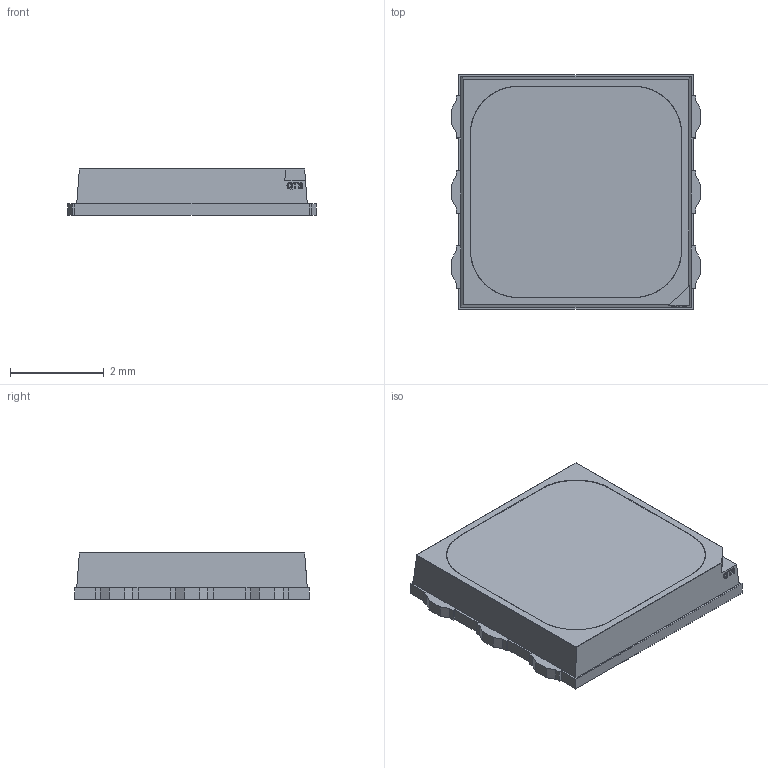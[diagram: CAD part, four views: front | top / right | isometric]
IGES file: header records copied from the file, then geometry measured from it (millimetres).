
Start section: Data from Parasolid IGES Translator 24.1.134, Copyright(c) 2006 Siemens PLM Software. All Rights Reserved.
Global section: file name: 6164bdc055d2e6064e66b86d.iges; native system: By Siemens PLM Incorporated; preprocessor: XPlus GENERIC/IGES 24.1.134; author: Noname; organization: Noname; date: 20211011.224208; units: metre
Bounding box: 5.3 x 5 x 1 mm (x, y, z)
Surface area: 166.1 mm2 (no closed solid volume)
Topology: 0 solids, 0 shells, 299 faces, 1840 edges, 1840 vertices
Faces by surface type: extrusion 287, bspline 12
